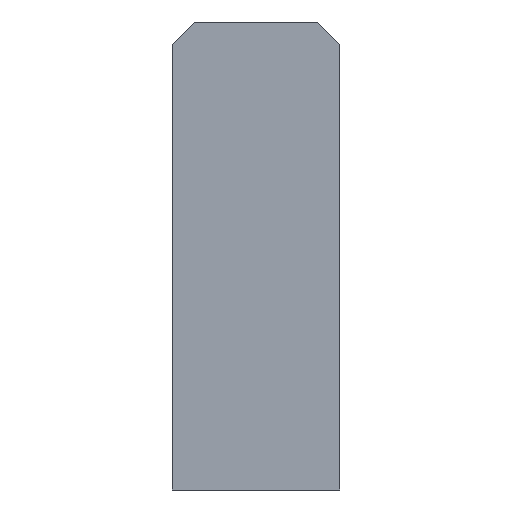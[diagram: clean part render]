
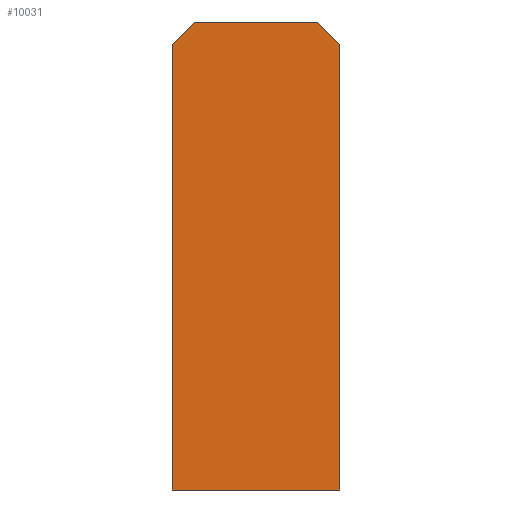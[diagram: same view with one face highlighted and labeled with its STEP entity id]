
A CAD part, left-side view. The second image highlights one B-rep face of the part: STEP entity #10031.
In plain terms, the highlighted planar face has unit normal (-1, 0, 0).
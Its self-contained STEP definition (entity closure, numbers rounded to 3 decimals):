
#1527=LINE('',#12153,#1880);
#1531=LINE('',#12160,#1884);
#1537=LINE('',#12172,#1890);
#1539=LINE('',#12176,#1892);
#1540=LINE('',#12179,#1893);
#1542=LINE('',#12182,#1895);
#1880=VECTOR('',#11179,1.768);
#1884=VECTOR('',#11185,7.);
#1890=VECTOR('',#11195,1.768);
#1892=VECTOR('',#11199,25.25);
#1893=VECTOR('',#11202,9.5);
#1895=VECTOR('',#11206,25.25);
#2372=FACE_OUTER_BOUND('',#3100,.T.);
#3100=EDGE_LOOP('',(#6304,#6305,#6306,#6307,#6308,#6309));
#3926=VERTEX_POINT('',#12150);
#3927=VERTEX_POINT('',#12152);
#3929=VERTEX_POINT('',#12158);
#3933=VERTEX_POINT('',#12170);
#3934=VERTEX_POINT('',#12174);
#3935=VERTEX_POINT('',#12178);
#4763=EDGE_CURVE('',#3926,#3927,#1527,.T.);
#4767=EDGE_CURVE('',#3929,#3926,#1531,.T.);
#4773=EDGE_CURVE('',#3933,#3929,#1537,.T.);
#4775=EDGE_CURVE('',#3934,#3933,#1539,.T.);
#4776=EDGE_CURVE('',#3935,#3934,#1540,.T.);
#4778=EDGE_CURVE('',#3927,#3935,#1542,.T.);
#6304=ORIENTED_EDGE('',*,*,#4763,.F.);
#6305=ORIENTED_EDGE('',*,*,#4767,.F.);
#6306=ORIENTED_EDGE('',*,*,#4773,.F.);
#6307=ORIENTED_EDGE('',*,*,#4775,.F.);
#6308=ORIENTED_EDGE('',*,*,#4776,.F.);
#6309=ORIENTED_EDGE('',*,*,#4778,.F.);
#9148=PLANE('',#10780);
#10031=ADVANCED_FACE('',(#2372),#9148,.F.);
#10780=AXIS2_PLACEMENT_3D('',#12183,#11207,#11208);
#11179=DIRECTION('',(0.,-0.707,-0.707));
#11185=DIRECTION('',(0.,-1.,0.));
#11195=DIRECTION('',(0.,-0.707,0.707));
#11199=DIRECTION('',(0.,0.,1.));
#11202=DIRECTION('',(0.,1.,0.));
#11206=DIRECTION('',(0.,0.,-1.));
#11207=DIRECTION('center_axis',(1.,0.,0.));
#11208=DIRECTION('ref_axis',(0.,-1.,0.));
#12150=CARTESIAN_POINT('',(-6.125,-3.5,0.));
#12152=CARTESIAN_POINT('',(-6.125,-4.75,-1.25));
#12153=CARTESIAN_POINT('',(-6.125,-6.25,-2.75));
#12158=CARTESIAN_POINT('',(-6.125,3.5,0.));
#12160=CARTESIAN_POINT('',(-6.125,4.75,0.));
#12170=CARTESIAN_POINT('',(-6.125,4.75,-1.25));
#12172=CARTESIAN_POINT('',(-6.125,6.25,-2.75));
#12174=CARTESIAN_POINT('',(-6.125,4.75,-26.5));
#12176=CARTESIAN_POINT('',(-6.125,4.75,-26.5));
#12178=CARTESIAN_POINT('',(-6.125,-4.75,-26.5));
#12179=CARTESIAN_POINT('',(-6.125,-4.75,-26.5));
#12182=CARTESIAN_POINT('',(-6.125,-4.75,0.));
#12183=CARTESIAN_POINT('Origin',(-6.125,0.,-13.25));
